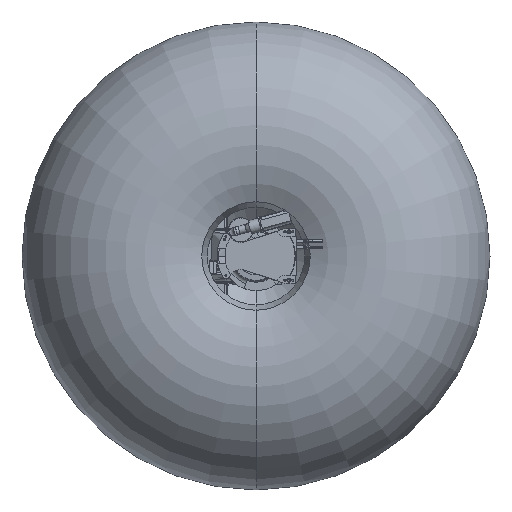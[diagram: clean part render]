
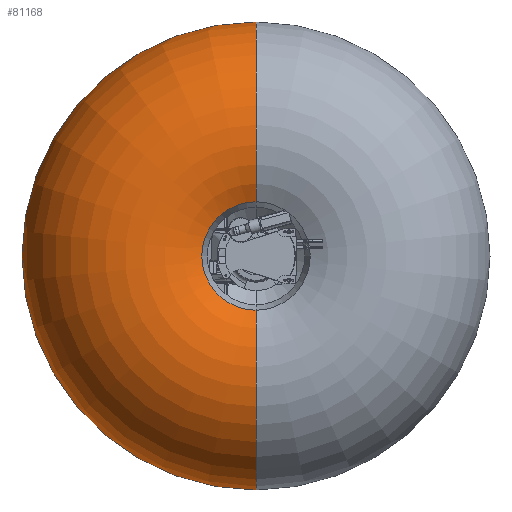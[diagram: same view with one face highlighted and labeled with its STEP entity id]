
A CAD part, front view. The second image highlights one B-rep face of the part: STEP entity #81168.
In plain terms, the highlighted toroidal (fillet/blend) face has major radius 1474.22 mm and minor radius 1530.56 mm.
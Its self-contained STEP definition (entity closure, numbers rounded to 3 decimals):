
#81137 = VERTEX_POINT ( 'NONE', #164642 ) ;
#81159 = EDGE_CURVE ( 'NONE', #81137, #81189, #164628, .T. ) ;
#81166 = EDGE_CURVE ( 'NONE', #81216, #81192, #164618, .T. ) ;
#81168 = ADVANCED_FACE ( 'NONE', ( #164613 ), #164660, .T. ) ;
#81170 = EDGE_LOOP ( 'NONE', ( #81172, #81263, #81267, #81269 ) ) ;
#81172 = ORIENTED_EDGE ( 'NONE', *, *, #81159, .F. ) ;
#81189 = VERTEX_POINT ( 'NONE', #164669 ) ;
#81191 = EDGE_CURVE ( 'NONE', #81189, #81192, #164668, .T. ) ;
#81192 = VERTEX_POINT ( 'NONE', #164723 ) ;
#81216 = VERTEX_POINT ( 'NONE', #164736 ) ;
#81263 = ORIENTED_EDGE ( 'NONE', *, *, #81265, .T. ) ;
#81265 = EDGE_CURVE ( 'NONE', #81137, #81216, #164851, .T. ) ;
#81267 = ORIENTED_EDGE ( 'NONE', *, *, #81166, .T. ) ;
#81269 = ORIENTED_EDGE ( 'NONE', *, *, #81191, .F. ) ;
#164613 = FACE_OUTER_BOUND ( 'NONE', #81170, .T. ) ;
#164614 = DIRECTION ( 'NONE',  ( 0., 0., 1. ) ) ;
#164615 = DIRECTION ( 'NONE',  ( -1., 0., 0. ) ) ;
#164616 = CARTESIAN_POINT ( 'NONE',  ( 0., 1411.76, -1474.222 ) ) ;
#164617 = AXIS2_PLACEMENT_3D ( 'NONE', #164616, #164615, #164614 ) ;
#164618 = CIRCLE ( 'NONE', #164617, 1530.555 ) ;
#164625 = DIRECTION ( 'NONE',  ( 0., 0., -1. ) ) ;
#164626 = DIRECTION ( 'NONE',  ( 1., 0., 0. ) ) ;
#164627 = AXIS2_PLACEMENT_3D ( 'NONE', #164633, #164626, #164625 ) ;
#164628 = CIRCLE ( 'NONE', #164627, 1530.555 ) ;
#164633 = CARTESIAN_POINT ( 'NONE',  ( 0., 1411.76, 1474.222 ) ) ;
#164642 = CARTESIAN_POINT ( 'NONE',  ( 0., 1262.425, 2997.475 ) ) ;
#164657 = DIRECTION ( 'NONE',  ( 0., 0., -1. ) ) ;
#164658 = DIRECTION ( 'NONE',  ( 0., -1., 0. ) ) ;
#164659 = AXIS2_PLACEMENT_3D ( 'NONE', #164661, #164658, #164657 ) ;
#164660 = TOROIDAL_SURFACE ( 'NONE', #164659, 1474.222, 1530.555 ) ;
#164661 = CARTESIAN_POINT ( 'NONE',  ( 0., 1411.76, 0. ) ) ;
#164667 = AXIS2_PLACEMENT_3D ( 'NONE', #164726, #164725, #164724 ) ;
#164668 = CIRCLE ( 'NONE', #164667, 695.124 ) ;
#164669 = CARTESIAN_POINT ( 'NONE',  ( 0., 94.336, 695.124 ) ) ;
#164723 = CARTESIAN_POINT ( 'NONE',  ( 0., 94.336, -695.124 ) ) ;
#164724 = DIRECTION ( 'NONE',  ( 0., 0., -1. ) ) ;
#164725 = DIRECTION ( 'NONE',  ( 0., -1., 0. ) ) ;
#164726 = CARTESIAN_POINT ( 'NONE',  ( 0., 94.336, 0. ) ) ;
#164736 = CARTESIAN_POINT ( 'NONE',  ( 0., 1262.425, -2997.475 ) ) ;
#164847 = DIRECTION ( 'NONE',  ( 0., 0., -1. ) ) ;
#164848 = DIRECTION ( 'NONE',  ( 0., -1., 0. ) ) ;
#164849 = CARTESIAN_POINT ( 'NONE',  ( 0., 1262.425, 0. ) ) ;
#164850 = AXIS2_PLACEMENT_3D ( 'NONE', #164849, #164848, #164847 ) ;
#164851 = CIRCLE ( 'NONE', #164850, 2997.475 ) ;
